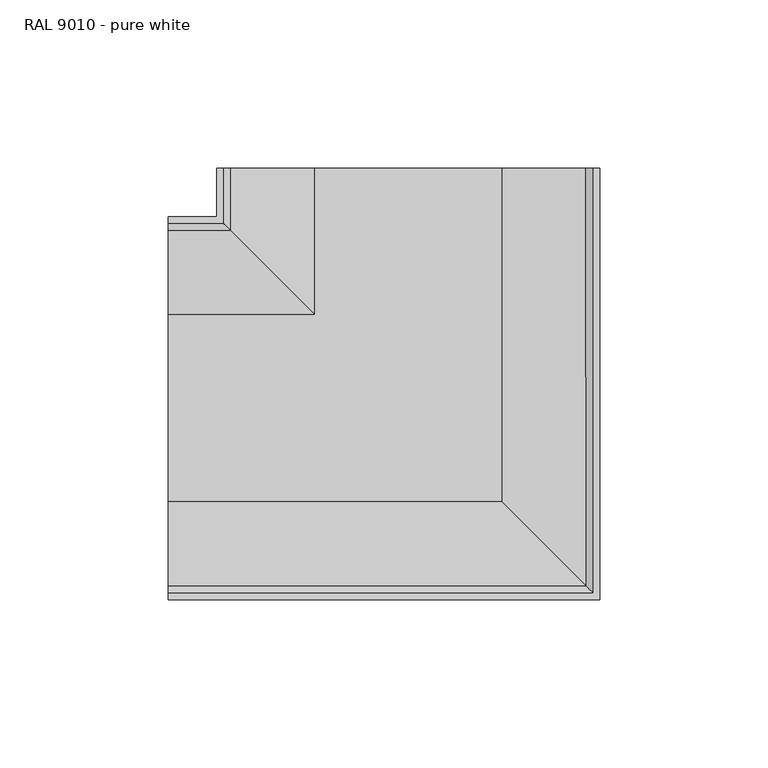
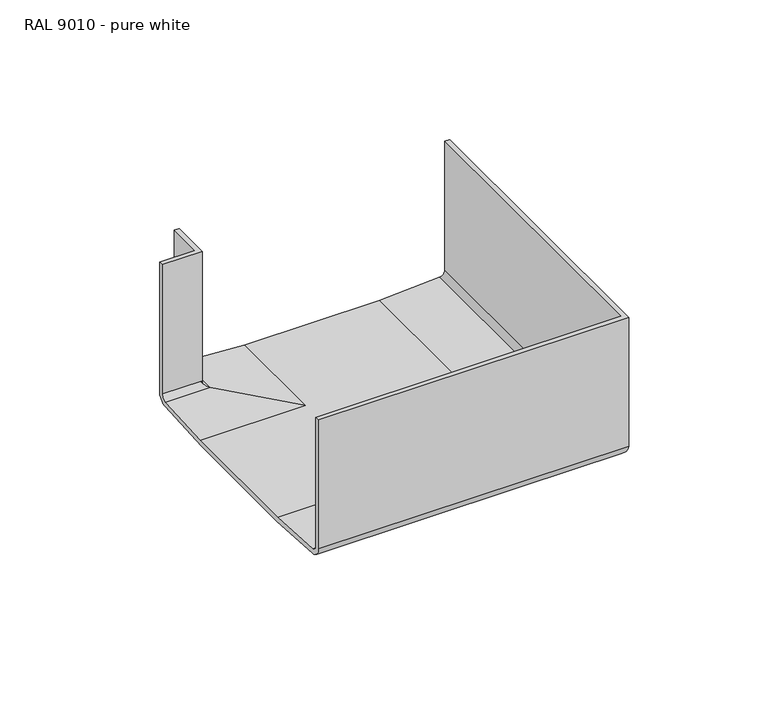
"""IFC4 building model written with IfcOpenShell, lengths in millimetres: cable carrier fitting geometry, Electrical_Installations_Hager_GBD-Flat-Corner-Vertical-Inside-And-Outside-Bend-Curved : RAL 9010 - pure white."""

import ifcopenshell
import ifcopenshell.guid

model = None  # the IFC model being written
_history = None  # IfcOwnerHistory: only IFC2X3 demands one
_inside = {}  # id of a spatial element -> (the spatial element, [elements in it])
_under = {}  # id of a project, library or spatial element -> (it, [spatial elements below it])
_declared = {}  # id of a project -> (the project, [libraries it declares])
_typed = {}  # id of a type object -> (the type object, [elements of that type])
_made_of = {}  # id of a material, layer set ... -> (it, [elements and type objects made of it])


def new_model(schema):
    """Start an empty IFC model of exactly this schema.

    Asked for "IFC4X3", IfcOpenShell would pick the latest addendum, in which some entities
    have other attributes; the version numbers below select the first issue.
    IFC2X3 requires an IfcOwnerHistory on every rooted entity: one is made here for all.
    """
    global model, _history
    if schema == "IFC4X3":
        model = ifcopenshell.file(schema_version=(4, 3, 0, 0))
    else:
        model = ifcopenshell.file(schema=schema)
    _inside.clear()
    _under.clear()
    _declared.clear()
    _typed.clear()
    _made_of.clear()
    _history = None
    if model.schema == "IFC2X3":
        org = make("IfcOrganization", Name="unknown")
        user = make(
            "IfcPersonAndOrganization",
            ThePerson=make("IfcPerson", FamilyName="unknown"),
            TheOrganization=org,
        )
        app = make(
            "IfcApplication",
            ApplicationDeveloper=org,
            Version="unknown",
            ApplicationFullName="unknown",
            ApplicationIdentifier="unknown",
        )
        _history = make(
            "IfcOwnerHistory",
            OwningUser=user,
            OwningApplication=app,
            ChangeAction="ADDED",
            CreationDate=0,
        )
    return model


def make(cls, **values):
    """One entity of the class cls with the attributes given. An attribute that is None is left unset."""
    return model.create_entity(
        cls, **{name: value for name, value in values.items() if value is not None}
    )


def rooted(cls, **values):
    """An entity with a GlobalId (a new one), such as an element, a storey or a relation."""
    return make(cls, GlobalId=ifcopenshell.guid.new(), OwnerHistory=_history, **values)


def si_unit(unit_type, name, prefix=None):
    """IfcSIUnit, for example si_unit("LENGTHUNIT", "METRE", prefix="MILLI")."""
    return make("IfcSIUnit", UnitType=unit_type, Prefix=prefix, Name=name)


def assignment(units):
    """IfcUnitAssignment: the units of a project."""
    return None if units is None else make("IfcUnitAssignment", Units=units)


def point(xyz):
    """IfcCartesianPoint."""
    return None if xyz is None else make("IfcCartesianPoint", Coordinates=xyz)


def direction(xyz):
    """IfcDirection."""
    return None if xyz is None else make("IfcDirection", DirectionRatios=xyz)


def frame(location, z_axis=None, x_axis=None):
    """IfcAxis2Placement3D, a coordinate frame: its origin and axes. An axis left out is left unset."""
    return make(
        "IfcAxis2Placement3D",
        Location=point(location),
        Axis=direction(z_axis),
        RefDirection=direction(x_axis),
    )


def origin():
    """The frame at (0, 0, 0) with its axes left unset."""
    return frame((0.0, 0.0, 0.0))


def place(relative_to, where):
    """IfcLocalPlacement: puts the frame where relative to a parent placement (None: the world)."""
    return make(
        "IfcLocalPlacement", PlacementRelTo=relative_to, RelativePlacement=where
    )


def context(
    kind, dimensions, precision=None, world=None, true_north=None, identifier=None
):
    """IfcGeometricRepresentationContext, for example the 3D "Model" context."""
    return make(
        "IfcGeometricRepresentationContext",
        ContextIdentifier=identifier,
        ContextType=kind,
        CoordinateSpaceDimension=dimensions,
        Precision=precision,
        WorldCoordinateSystem=world,
        TrueNorth=true_north,
    )


def project(units=None, contexts=None):
    """IfcProject with its units and contexts."""
    return rooted(
        "IfcProject",
        Name="project",
        RepresentationContexts=contexts,
        UnitsInContext=assignment(units),
    )


def spatial(cls, under=None, at=None, **own):
    """A site, building, storey or space (cls), placed at a placement, below another one or the project."""
    s = rooted(cls, ObjectPlacement=at, **own)
    if under is not None:
        _under.setdefault(under.id(), (under, []))[1].append(s)
    return s


def polyline(points):
    """IfcPolyline through the points."""
    return make("IfcPolyline", Points=[point(p) for p in points])


def circle_curve(where, radius):
    """IfcCircle in the frame where."""
    return make("IfcCircle", Position=where, Radius=radius)


def ellipse_curve(where, semi_axis1, semi_axis2):
    """IfcEllipse in the frame where."""
    return make(
        "IfcEllipse", Position=where, SemiAxis1=semi_axis1, SemiAxis2=semi_axis2
    )


def shape(context_of_items, identifier, shape_type, items):
    """IfcShapeRepresentation: the items that make up one representation, for example the "Body"."""
    return make(
        "IfcShapeRepresentation",
        ContextOfItems=context_of_items,
        RepresentationIdentifier=identifier,
        RepresentationType=shape_type,
        Items=items,
    )


def source(mapping_origin, context_of_items, identifier, shape_type, items):
    """IfcRepresentationMap: a shape defined once, which mapped items show again and again."""
    return make(
        "IfcRepresentationMap",
        MappingOrigin=mapping_origin,
        MappedRepresentation=shape(context_of_items, identifier, shape_type, items),
    )


def transform(
    local_origin,
    x_axis=None,
    y_axis=None,
    z_axis=None,
    scale=None,
    scale2=None,
    scale3=None,
    uniform=True,
):
    """IfcCartesianTransformationOperator3D, or its non-uniform kind. x_axis, y_axis, z_axis: its Axis1, 2, 3."""
    if uniform:
        return make(
            "IfcCartesianTransformationOperator3D",
            Axis1=direction(x_axis),
            Axis2=direction(y_axis),
            LocalOrigin=point(local_origin),
            Scale=scale,
            Axis3=direction(z_axis),
        )
    return make(
        "IfcCartesianTransformationOperator3DnonUniform",
        Axis1=direction(x_axis),
        Axis2=direction(y_axis),
        LocalOrigin=point(local_origin),
        Scale=scale,
        Axis3=direction(z_axis),
        Scale2=scale2,
        Scale3=scale3,
    )


def mapped(mapping_source, mapping_target):
    """IfcMappedItem: shows the shape of a source again, moved by a transform."""
    return make(
        "IfcMappedItem", MappingSource=mapping_source, MappingTarget=mapping_target
    )


def made_of(thing, what):
    """Note that an element or type object is made of a material, layer set ...; save() writes the relation."""
    if what is not None:
        _made_of.setdefault(what.id(), (what, []))[1].append(thing)
    return thing


def element(
    cls,
    number,
    at=None,
    inside=None,
    cuts=None,
    type_object=None,
    material=None,
    context=None,
    identifier="Body",
    shape_type=None,
    held_by="IfcProductDefinitionShape",
    body=None,
    shapes=None,
    **own,
):
    """One element of the class cls, such as IfcWall. Its Tag is "e" and its number.

    at: its placement. inside: the storey or other place that contains it. cuts: it is an
    opening in that element (IfcRelVoidsElement). A single representation is given by context,
    identifier, shape_type and body (its items); several are given by shapes. held_by: the class
    of the entity that holds the representations. save() writes the other relations.
    """
    e = rooted(cls, Tag="e%d" % number, ObjectPlacement=at, **own)
    if body is not None:
        shapes = [shape(context, identifier, shape_type, body)]
    if shapes is not None:
        e.Representation = make(held_by, Representations=shapes)
    if inside is not None:
        _inside.setdefault(inside.id(), (inside, []))[1].append(e)
    if cuts is not None:
        rooted(
            "IfcRelVoidsElement", RelatingBuildingElement=cuts, RelatedOpeningElement=e
        )
    if type_object is not None:
        _typed.setdefault(type_object.id(), (type_object, []))[1].append(e)
    return made_of(e, material)


def aggregate(whole, parts):
    """IfcRelAggregates: a whole, such as a stair, and the parts it consists of."""
    return rooted("IfcRelAggregates", RelatingObject=whole, RelatedObjects=parts)


def save(model, path):
    """Write the relations noted so far, then the file.

    IfcRelAggregates (storeys below a building ...), IfcRelContainedInSpatialStructure (elements
    in a storey), IfcRelDefinesByType, IfcRelAssociatesMaterial and IfcRelDeclares: one each for
    every whole, place, type object, material and project.
    """
    for whole, parts in _under.values():
        aggregate(whole, parts)
    for where, things in _inside.values():
        rooted(
            "IfcRelContainedInSpatialStructure",
            RelatedElements=things,
            RelatingStructure=where,
        )
    for kind, things in _typed.values():
        rooted("IfcRelDefinesByType", RelatedObjects=things, RelatingType=kind)
    for what, things in _made_of.values():
        rooted("IfcRelAssociatesMaterial", RelatedObjects=things, RelatingMaterial=what)
    for by, libraries in _declared.values():
        rooted("IfcRelDeclares", RelatingContext=by, RelatedDefinitions=libraries)
    model.write(path)


def plane_surface(at):
    """IfcPlane: the flat surface through the origin of the frame at, square to its z axis."""
    return make("IfcPlane", Position=at)


def cylinder_surface(at, radius):
    """IfcCylindricalSurface: all points at the distance radius from the z axis of the frame at."""
    return make("IfcCylindricalSurface", Position=at, Radius=radius)


def revolved_surface(curve, axis_point, axis_direction):
    """IfcSurfaceOfRevolution: the curve turned about the line through axis_point along axis_direction."""
    return make(
        "IfcSurfaceOfRevolution",
        SweptCurve=make("IfcArbitraryOpenProfileDef", ProfileType="CURVE", Curve=curve),
        AxisPosition=make("IfcAxis1Placement", Location=point(axis_point), Axis=direction(axis_direction)),
    )


def advanced_brep(points, edges, surfaces, faces):
    """IfcAdvancedBrep: a solid bounded by faces that lie on surfaces and meet in shared edges.

    An edge is (start, end): straight between two places in points (the first is 0);
    or (start, end, curve); or (start, end, curve, False) where it runs against its curve.
    A face is (place in surfaces, loops), or (place, loops, False) where it looks against
    its surface's normal. A loop lists edges by number (the first is 1), with a minus sign
    where the edge is run from its end to its start. The first loop is the outer one.
    """
    corners = [point(p) for p in points]
    vertices = [make("IfcVertexPoint", VertexGeometry=c) for c in corners]
    made = []
    for start, end, *more in edges:
        made.append(
            make(
                "IfcEdgeCurve",
                EdgeStart=vertices[start],
                EdgeEnd=vertices[end],
                EdgeGeometry=more[0] if more else make("IfcPolyline", Points=[corners[start], corners[end]]),
                SameSense=more[1] if len(more) > 1 else True,
            )
        )
    hull = []
    for where, loops, *sense in faces:
        bounds = []
        for j, loop in enumerate(loops):
            ring = [make("IfcOrientedEdge", EdgeElement=made[abs(k) - 1], Orientation=k > 0) for k in loop]
            bounds.append(
                make(
                    "IfcFaceOuterBound" if j == 0 else "IfcFaceBound",
                    Bound=make("IfcEdgeLoop", EdgeList=ring),
                    Orientation=True,
                )
            )
        hull.append(make("IfcAdvancedFace", Bounds=bounds, FaceSurface=surfaces[where], SameSense=sense[0] if sense else True))
    return make("IfcAdvancedBrep", Outer=make("IfcClosedShell", CfsFaces=hull))


def ral_9010_pure_white_7680beca(model_context):
    return source(origin(), model_context, "Body", "AdvancedBrep", [
        advanced_brep(
        [(-71.5, 26.8133024, -34.957916), (-71.5, -26.8629789, -34.957916), (-71.5, -52.9370768, -33.406396), (-71.5, -57.0248383, -29.0681648), (-71.5, -57.0248383, 27.521231), (-71.5, -55.0727353, 27.521231), (-71.5, -55.0727353, -29.0681648), (-71.5, -52.9329395, -31.4049977), (-71.5, -27.8540421, -32.926666), (-71.5, 27.8043655, -32.926666), (-71.5, 52.819149, -31.4097682), (-71.5, 55.0139434, -29.0681648), (-71.5, 55.0139434, 27.6254199), (-71.5, 56.9751617, 27.6254199), (-71.5, 56.9751617, -29.0681648), (-71.5, 53.011084, -33.3972636), (-26.8133024, 26.8133024, -34.957916), (-26.8133024, 71.5, -34.957916), (26.8629789, 71.5, -34.957916), (26.8629789, -26.8629789, -34.957916), (52.9370768, -52.9370768, -33.406396), (57.0248383, -57.0248383, -29.0681648), (57.0248383, -57.0248383, 27.521231), (57.0248383, 71.5, 27.521231), (55.0727353, 71.5, 27.521231), (55.0727353, -55.0727353, 27.521231), (55.0727353, -55.0727353, -29.0681648), (52.9329395, -52.9329395, -31.4049977), (27.8540421, -27.8540421, -32.926666), (27.8540421, 71.5, -32.926666), (-27.8043655, 71.5, -32.926666), (-27.8043655, 27.8043655, -32.926666), (-52.819149, 52.819149, -31.4097682), (-55.0139434, 55.0139434, -29.0681648), (-55.0139434, 55.0139434, 27.6254199), (-55.0139434, 71.5, 27.6254199), (-56.9751617, 71.5, 27.6254199), (-56.9751617, 56.9751617, 27.6254199), (-56.9751617, 56.9751617, -29.0681648), (-53.011084, 53.011084, -33.3972636), (-52.8874003, 71.5, -33.406396), (-56.9751617, 71.5, -29.0681648), (-55.0139434, 71.5, -29.0681648), (-52.8741476, 71.5, -31.4049977), (52.8688255, 71.5, -31.4097682), (55.0727353, 71.5, -29.0681648), (57.0248383, 71.5, -29.0681648), (53.0607605, 71.5, -33.3972636)],
        [
            (0, 1),
            (1, 2, circle_curve(frame((-71.5, -22.5707654, 257.0450878), z_axis=(-1.0, 0.0, 0.0), x_axis=(0.0, 0.0, 1.0)), 292.0345481)),
            (2, 3, circle_curve(frame((-71.5, -52.6789336, -29.0681648), z_axis=(-1.0, 0.0, 0.0), x_axis=(0.0, 0.0, 1.0)), 4.3459047)),
            (3, 4),
            (4, 5),
            (5, 6),
            (6, 7, circle_curve(frame((-71.5, -52.7268306, -29.0681648), z_axis=(1.0, 0.0, 0.0), x_axis=(0.0, 0.0, 1.0)), 2.3459047)),
            (7, 8, circle_curve(frame((-71.5, -23.3389631, 248.5451055), z_axis=(1.0, 0.0, 0.0), x_axis=(0.0, 0.0, 1.0)), 281.5079822)),
            (8, 9),
            (9, 10, circle_curve(frame((-71.5, 23.2892866, 248.5451055), z_axis=(1.0, 0.0, 0.0), x_axis=(0.0, 0.0, 1.0)), 281.5079822)),
            (10, 11, circle_curve(frame((-71.5, 52.6680387, -29.0681648), z_axis=(1.0, 0.0, 0.0), x_axis=(0.0, 0.0, 1.0)), 2.3459047)),
            (11, 12),
            (12, 13),
            (13, 14),
            (14, 15, circle_curve(frame((-71.5, 52.629257, -29.0681648), z_axis=(-1.0, 0.0, 0.0), x_axis=(0.0, 0.0, 1.0)), 4.3459047)),
            (15, 0, circle_curve(frame((-71.5, 22.5210889, 257.0450878), z_axis=(-1.0, 0.0, 0.0), x_axis=(0.0, 0.0, 1.0)), 292.0345481)),
            (0, 16),
            (16, 17),
            (17, 18),
            (18, 19),
            (19, 1),
            (19, 20, ellipse_curve(frame((22.5707654, -22.5707654, 257.0450878), z_axis=(-0.7071067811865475, -0.7071067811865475, 0.0), x_axis=(-0.7071067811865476, 0.7071067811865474, 0.0)), 412.9992186, 292.0345481)),
            (20, 2),
            (20, 21, ellipse_curve(frame((52.6789336, -52.6789336, -29.0681648), z_axis=(-0.7071067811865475, -0.7071067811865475, 0.0), x_axis=(-0.7071067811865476, 0.7071067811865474, 0.0)), 6.1460374, 4.3459047)),
            (21, 3),
            (21, 22),
            (22, 4),
            (22, 23),
            (23, 24),
            (24, 25),
            (25, 5),
            (25, 26),
            (26, 6),
            (26, 27, ellipse_curve(frame((52.7268306, -52.7268306, -29.0681648), z_axis=(0.7071067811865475, 0.7071067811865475, 0.0), x_axis=(0.7071067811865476, -0.7071067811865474, 0.0)), 3.3176103, 2.3459047)),
            (27, 7),
            (27, 28, ellipse_curve(frame((23.3389631, -23.3389631, 248.5451055), z_axis=(0.7071067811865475, 0.7071067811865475, 0.0), x_axis=(0.7071067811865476, -0.7071067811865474, 0.0)), 398.1124064, 281.5079822)),
            (28, 8),
            (28, 29),
            (29, 30),
            (30, 31),
            (31, 9),
            (31, 32, ellipse_curve(frame((-23.2892866, 23.2892866, 248.5451055), z_axis=(0.7071067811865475, 0.7071067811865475, 0.0), x_axis=(0.7071067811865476, -0.7071067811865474, 0.0)), 398.1124064, 281.5079822)),
            (32, 10),
            (32, 33, ellipse_curve(frame((-52.6680387, 52.6680387, -29.0681648), z_axis=(0.7071067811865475, 0.7071067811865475, 0.0), x_axis=(0.7071067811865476, -0.7071067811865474, 0.0)), 3.3176103, 2.3459047)),
            (33, 11),
            (33, 34),
            (34, 12),
            (34, 35),
            (35, 36),
            (36, 37),
            (37, 13),
            (37, 38),
            (38, 14),
            (38, 39, ellipse_curve(frame((-52.629257, 52.629257, -29.0681648), z_axis=(-0.7071067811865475, -0.7071067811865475, 0.0), x_axis=(-0.7071067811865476, 0.7071067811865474, 0.0)), 6.1460374, 4.3459047)),
            (39, 15),
            (39, 16, ellipse_curve(frame((-22.5210889, 22.5210889, 257.0450878), z_axis=(-0.7071067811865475, -0.7071067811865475, 0.0), x_axis=(-0.7071067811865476, 0.7071067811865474, 0.0)), 412.9992186, 292.0345481)),
            (17, 40, circle_curve(frame((-22.5210889, 71.5, 257.0450878), z_axis=(0.0, 1.0, 0.0), x_axis=(0.0, 0.0, 1.0)), 292.0345481)),
            (40, 41, circle_curve(frame((-52.629257, 71.5, -29.0681648), z_axis=(0.0, 1.0, 0.0), x_axis=(0.0, 0.0, 1.0)), 4.3459047)),
            (41, 36),
            (35, 42),
            (42, 43, circle_curve(frame((-52.6680387, 71.5, -29.0681648), z_axis=(0.0, -1.0, 0.0), x_axis=(0.0, 0.0, 1.0)), 2.3459047)),
            (43, 30, circle_curve(frame((-23.2892866, 71.5, 248.5451055), z_axis=(0.0, -1.0, 0.0), x_axis=(0.0, 0.0, 1.0)), 281.5079822)),
            (29, 44, circle_curve(frame((23.3389631, 71.5, 248.5451055), z_axis=(0.0, -1.0, 0.0), x_axis=(0.0, 0.0, 1.0)), 281.5079822)),
            (44, 45, circle_curve(frame((52.7268306, 71.5, -29.0681648), z_axis=(0.0, -1.0, 0.0), x_axis=(0.0, 0.0, 1.0)), 2.3459047)),
            (45, 24),
            (23, 46),
            (46, 47, circle_curve(frame((52.6789336, 71.5, -29.0681648), z_axis=(0.0, 1.0, 0.0), x_axis=(0.0, 0.0, 1.0)), 4.3459047)),
            (47, 18, circle_curve(frame((22.5707654, 71.5, 257.0450878), z_axis=(0.0, 1.0, 0.0), x_axis=(0.0, 0.0, 1.0)), 292.0345481)),
            (47, 20),
            (46, 21),
            (45, 26),
            (44, 27),
            (43, 32),
            (42, 33),
            (41, 38),
            (40, 39),
        ],
        [
            plane_surface(frame((-71.5, 0.0, 0.0), z_axis=(-1.0, 0.0, 0.0), x_axis=(0.0, 0.0, 1.0))),
            plane_surface(frame((-71.5, 26.8133024, -34.957916), z_axis=(0.0, 0.0, -1.0), x_axis=(1.0, 0.0, 0.0))),
            cylinder_surface(frame((-71.5, -22.5707654, 257.0450878), z_axis=(-1.0, 0.0, 0.0), x_axis=(0.0, 0.0, 1.0)), 292.0345481),
            cylinder_surface(frame((-71.5, -52.6789336, -29.0681648), z_axis=(-1.0, 0.0, 0.0), x_axis=(0.0, 0.0, 1.0)), 4.3459047),
            plane_surface(frame((-71.5, -57.0248383, -29.0681648), z_axis=(0.0, -1.0, 0.0), x_axis=(1.0, 0.0, 0.0))),
            plane_surface(frame((-71.5, -57.0248383, 27.521231), z_axis=(0.0, 0.0, 1.0), x_axis=(1.0, 0.0, 0.0))),
            plane_surface(frame((-71.5, -55.0727353, 27.521231), z_axis=(0.0, 1.0, 0.0), x_axis=(1.0, 0.0, 0.0))),
            revolved_surface(polyline([(55.072735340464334, -52.7268306, -26.7222601), (-71.5, -52.7268306, -26.7222601)]), (-71.5, -52.7268306, -29.0681648), (1.0, 0.0, 0.0)),
            revolved_surface(polyline([(304.8469453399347, -23.3389631, 530.0530877), (-258.1690191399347, -23.3389631, 530.0530877)]), (-71.5, -23.3389631, 248.5451055), (1.0, 0.0, 0.0)),
            plane_surface(frame((-71.5, -27.8540421, -32.926666), z_axis=(0.0, 0.0, 1.0), x_axis=(1.0, 0.0, 0.0))),
            revolved_surface(polyline([(258.2186956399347, 23.2892866, 530.0530877), (-304.79726883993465, 23.2892866, 530.0530877)]), (-71.5, 23.2892866, 248.5451055), (1.0, 0.0, 0.0)),
            revolved_surface(polyline([(-50.32213395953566, 52.6680387, -26.7222601), (-71.5, 52.6680387, -26.7222601)]), (-71.5, 52.6680387, -29.0681648), (1.0, 0.0, 0.0)),
            plane_surface(frame((-71.5, 55.0139434, -29.0681648), z_axis=(0.0, -1.0, 0.0), x_axis=(1.0, 0.0, 0.0))),
            plane_surface(frame((-71.5, 55.0139434, 27.6254199), z_axis=(0.0, 0.0, 1.0), x_axis=(1.0, 0.0, 0.0))),
            plane_surface(frame((-71.5, 56.9751617, 27.6254199), z_axis=(0.0, 1.0, 0.0), x_axis=(1.0, 0.0, 0.0))),
            cylinder_surface(frame((-71.5, 52.629257, -29.0681648), z_axis=(-1.0, 0.0, 0.0), x_axis=(0.0, 0.0, 1.0)), 4.3459047),
            cylinder_surface(frame((-71.5, 22.5210889, 257.0450878), z_axis=(-1.0, 0.0, 0.0), x_axis=(0.0, 0.0, 1.0)), 292.0345481),
            plane_surface(frame((0.0, 71.5, 0.0), z_axis=(0.0, 1.0, 0.0), x_axis=(0.0, 0.0, 1.0))),
            cylinder_surface(frame((22.5707654, 0.0, 257.0450878), z_axis=(0.0, -1.0, 0.0), x_axis=(0.0, 0.0, 1.0)), 292.0345481),
            cylinder_surface(frame((52.6789336, 0.0, -29.0681648), z_axis=(0.0, -1.0, 0.0), x_axis=(0.0, 0.0, 1.0)), 4.3459047),
            plane_surface(frame((57.0248383, -57.0248383, -29.0681648), z_axis=(1.0, 0.0, 0.0), x_axis=(0.0, 1.0, 0.0))),
            plane_surface(frame((55.0727353, -55.0727353, 27.521231), z_axis=(-1.0, 0.0, 0.0), x_axis=(0.0, 1.0, 0.0))),
            revolved_surface(polyline([(52.7268306, 71.5, -26.7222601), (52.7268306, -55.072735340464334, -26.7222601)]), (52.7268306, 0.0, -29.0681648), (0.0, 1.0, 0.0)),
            revolved_surface(polyline([(23.3389631, 258.1690191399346, 530.0530877), (23.3389631, -304.8469453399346, 530.0530877)]), (23.3389631, 0.0, 248.5451055), (0.0, 1.0, 0.0)),
            revolved_surface(polyline([(-23.2892866, 304.79726883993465, 530.0530877), (-23.2892866, -258.2186956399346, 530.0530877)]), (-23.2892866, 0.0, 248.5451055), (0.0, 1.0, 0.0)),
            revolved_surface(polyline([(-52.6680387, 71.5, -26.7222601), (-52.6680387, 50.32213395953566, -26.7222601)]), (-52.6680387, 0.0, -29.0681648), (0.0, 1.0, 0.0)),
            plane_surface(frame((-55.0139434, 55.0139434, -29.0681648), z_axis=(1.0, 0.0, 0.0), x_axis=(0.0, 1.0, 0.0))),
            plane_surface(frame((-56.9751617, 56.9751617, 27.6254199), z_axis=(-1.0, 0.0, 0.0), x_axis=(0.0, 1.0, 0.0))),
            cylinder_surface(frame((-52.629257, 0.0, -29.0681648), z_axis=(0.0, -1.0, 0.0), x_axis=(0.0, 0.0, 1.0)), 4.3459047),
            cylinder_surface(frame((-22.5210889, 0.0, 257.0450878), z_axis=(0.0, -1.0, 0.0), x_axis=(0.0, 0.0, 1.0)), 292.0345481),
        ],
        [
            (0, [[1, 2, 3, 4, 5, 6, 7, 8, 9, 10, 11, 12, 13, 14, 15, 16]]),
            (1, [[-1, 17, 18, 19, 20, 21]]),
            (2, [[-2, -21, 22, 23]]),
            (3, [[-3, -23, 24, 25]]),
            (4, [[-4, -25, 26, 27]]),
            (5, [[-5, -27, 28, 29, 30, 31]]),
            (6, [[-6, -31, 32, 33]]),
            (7, [[-7, -33, 34, 35]]),
            (8, [[-8, -35, 36, 37]]),
            (9, [[-9, -37, 38, 39, 40, 41]]),
            (10, [[-10, -41, 42, 43]]),
            (11, [[-11, -43, 44, 45]]),
            (12, [[-12, -45, 46, 47]]),
            (13, [[-13, -47, 48, 49, 50, 51]]),
            (14, [[-14, -51, 52, 53]]),
            (15, [[-15, -53, 54, 55]]),
            (16, [[-16, -55, 56, -17]]),
            (17, [[57, 58, 59, -49, 60, 61, 62, -39, 63, 64, 65, -29, 66, 67, 68, -19]]),
            (18, [[-22, -20, -68, 69]]),
            (19, [[-24, -69, -67, 70]]),
            (20, [[-26, -70, -66, -28]]),
            (21, [[-32, -30, -65, 71]]),
            (22, [[-34, -71, -64, 72]]),
            (23, [[-36, -72, -63, -38]]),
            (24, [[-42, -40, -62, 73]]),
            (25, [[-44, -73, -61, 74]]),
            (26, [[-46, -74, -60, -48]]),
            (27, [[-52, -50, -59, 75]]),
            (28, [[-54, -75, -58, 76]]),
            (29, [[-56, -76, -57, -18]]),
        ],
    ),
    ])


if __name__ == "__main__":
    model = new_model("IFC4")
    model_context = context("Model", 3, world=origin())
    ifc_project = project(units=[si_unit("LENGTHUNIT", "METRE", prefix="MILLI")], contexts=[model_context])
    site = spatial("IfcSite", under=ifc_project)
    building = spatial("IfcBuilding", under=site)
    placement = place(None, origin())
    ral_9010_pure_white_shape = ral_9010_pure_white_7680beca(model_context)
    element("IfcCableCarrierFitting", 1, ObjectType="Electrical_Installations_Hager_GBD-Flat-Corner-Vertical-Inside-And-Outside-Bend-Curved : RAL 9010 - pure white", at=placement, inside=building, context=model_context, shape_type="MappedRepresentation", body=[
        mapped(ral_9010_pure_white_shape, transform((0.0, 0.0, 0.0), x_axis=(1.0, 0.0, 0.0), y_axis=(0.0, 1.0, 0.0), z_axis=(0.0, 0.0, 1.0))),
    ])
    save(model, "model.ifc")
